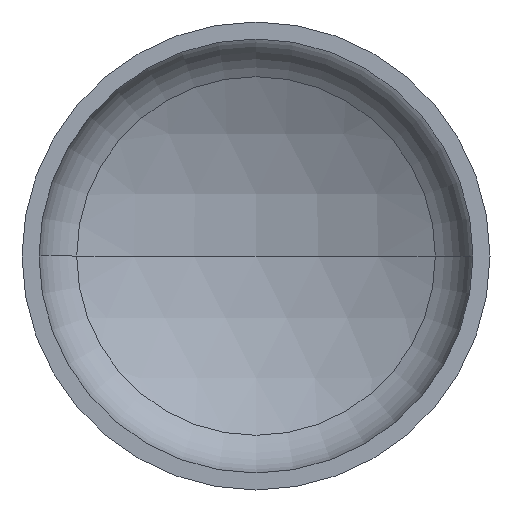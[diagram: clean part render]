
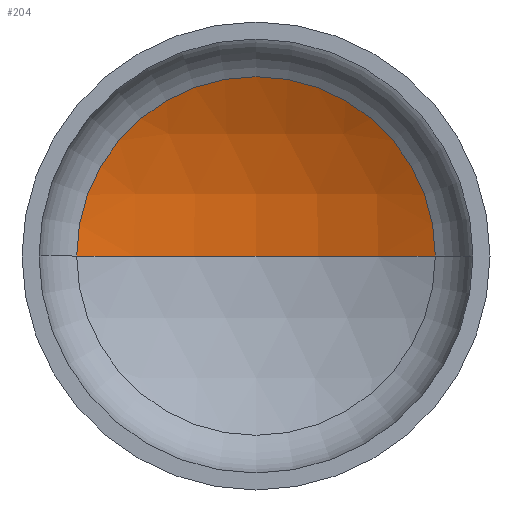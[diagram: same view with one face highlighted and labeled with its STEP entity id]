
A CAD part, front view. The second image highlights one B-rep face of the part: STEP entity #204.
In plain terms, the highlighted spherical face has radius 880 mm.
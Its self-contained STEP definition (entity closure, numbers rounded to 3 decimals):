
#21 = VERTEX_POINT ( 'NONE', #314 ) ;
#27 = AXIS2_PLACEMENT_3D ( 'NONE', #205, #222, #340 ) ;
#29 = AXIS2_PLACEMENT_3D ( 'NONE', #295, #150, #246 ) ;
#32 = AXIS2_PLACEMENT_3D ( 'NONE', #218, #389, #269 ) ;
#37 = AXIS2_PLACEMENT_3D ( 'NONE', #291, #84, #313 ) ;
#58 = VERTEX_POINT ( 'NONE', #335 ) ;
#79 = CARTESIAN_POINT ( 'NONE',  ( -421.408, 269.24, 0. ) ) ;
#84 = DIRECTION ( 'NONE',  ( 0., -1., 0. ) ) ;
#104 = ORIENTED_EDGE ( 'NONE', *, *, #159, .T. ) ;
#114 = ORIENTED_EDGE ( 'NONE', *, *, #178, .F. ) ;
#130 = VERTEX_POINT ( 'NONE', #79 ) ;
#150 = DIRECTION ( 'NONE',  ( 0., 0., 1. ) ) ;
#151 = EDGE_LOOP ( 'NONE', ( #114, #164, #104 ) ) ;
#159 = EDGE_CURVE ( 'NONE', #58, #130, #170, .T. ) ;
#161 = CIRCLE ( 'NONE', #32, 880. ) ;
#164 = ORIENTED_EDGE ( 'NONE', *, *, #172, .T. ) ;
#170 = CIRCLE ( 'NONE', #37, 421.408 ) ;
#172 = EDGE_CURVE ( 'NONE', #21, #58, #161, .T. ) ;
#178 = EDGE_CURVE ( 'NONE', #21, #130, #278, .T. ) ;
#204 = ADVANCED_FACE ( 'NONE', ( #341 ), #403, .F. ) ;
#205 = CARTESIAN_POINT ( 'NONE',  ( 0., -503.298, 0. ) ) ;
#218 = CARTESIAN_POINT ( 'NONE',  ( 0., -503.298, 0. ) ) ;
#222 = DIRECTION ( 'NONE',  ( 0., 0., -1. ) ) ;
#246 = DIRECTION ( 'NONE',  ( 1., 0., 0. ) ) ;
#269 = DIRECTION ( 'NONE',  ( -1., 0., 0. ) ) ;
#278 = CIRCLE ( 'NONE', #29, 880. ) ;
#291 = CARTESIAN_POINT ( 'NONE',  ( 0., 269.24, 0. ) ) ;
#295 = CARTESIAN_POINT ( 'NONE',  ( 0., -503.298, 0. ) ) ;
#313 = DIRECTION ( 'NONE',  ( 1., 0., 0. ) ) ;
#314 = CARTESIAN_POINT ( 'NONE',  ( 0., 376.702, 0. ) ) ;
#335 = CARTESIAN_POINT ( 'NONE',  ( 421.408, 269.24, 0. ) ) ;
#340 = DIRECTION ( 'NONE',  ( -1., 0., 0. ) ) ;
#341 = FACE_OUTER_BOUND ( 'NONE', #151, .T. ) ;
#389 = DIRECTION ( 'NONE',  ( 0., 0., -1. ) ) ;
#403 = SPHERICAL_SURFACE ( 'NONE', #27, 880. ) ;
